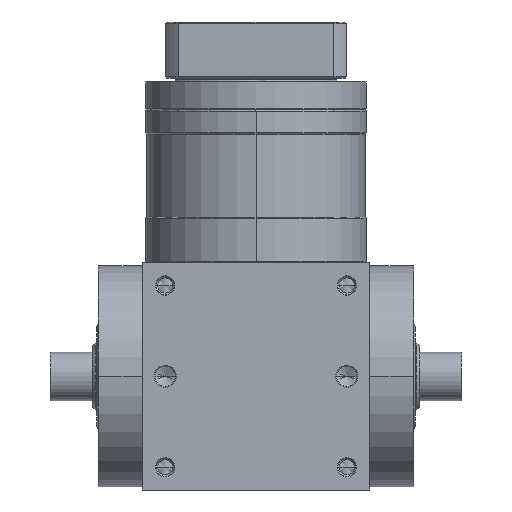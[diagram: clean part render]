
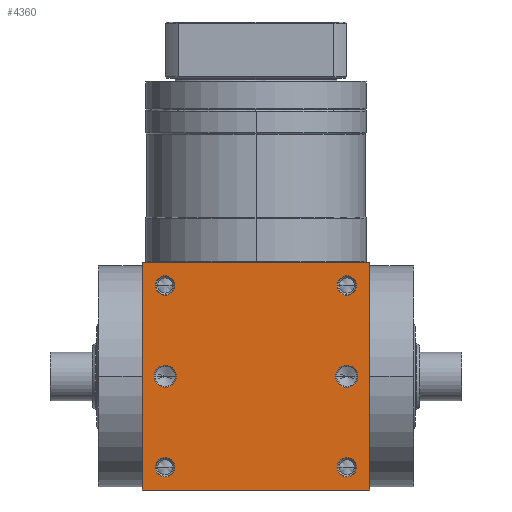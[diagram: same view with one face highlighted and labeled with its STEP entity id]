
A CAD part, front view. The second image highlights one B-rep face of the part: STEP entity #4360.
In plain terms, the highlighted planar face has unit normal (0, -1, 0).
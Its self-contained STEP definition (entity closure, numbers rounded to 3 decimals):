
#5=DIRECTION('',(1.,0.,0.));
#6=VECTOR('',#5,75.);
#7=CARTESIAN_POINT('',(-37.5,-37.5,-37.5));
#8=LINE('',#7,#6);
#155=DIRECTION('',(0.,0.,1.));
#156=VECTOR('',#155,75.);
#157=CARTESIAN_POINT('',(37.5,-37.5,-37.5));
#158=LINE('',#157,#156);
#209=DIRECTION('',(0.,0.,1.));
#210=VECTOR('',#209,75.);
#211=CARTESIAN_POINT('',(-37.5,-37.5,-37.5));
#212=LINE('',#211,#210);
#213=CARTESIAN_POINT('',(30.,-37.5,30.));
#214=DIRECTION('',(0.,1.,0.));
#215=DIRECTION('',(-1.,0.,0.));
#216=AXIS2_PLACEMENT_3D('',#213,#214,#215);
#218=CARTESIAN_POINT('',(30.,-37.5,30.));
#219=DIRECTION('',(0.,1.,0.));
#220=DIRECTION('',(1.,0.,0.));
#221=AXIS2_PLACEMENT_3D('',#218,#219,#220);
#223=CARTESIAN_POINT('',(-30.,-37.5,30.));
#224=DIRECTION('',(0.,1.,0.));
#225=DIRECTION('',(-1.,0.,0.));
#226=AXIS2_PLACEMENT_3D('',#223,#224,#225);
#228=CARTESIAN_POINT('',(-30.,-37.5,30.));
#229=DIRECTION('',(0.,1.,0.));
#230=DIRECTION('',(1.,0.,0.));
#231=AXIS2_PLACEMENT_3D('',#228,#229,#230);
#233=CARTESIAN_POINT('',(30.,-37.5,-30.));
#234=DIRECTION('',(0.,1.,0.));
#235=DIRECTION('',(-1.,0.,0.));
#236=AXIS2_PLACEMENT_3D('',#233,#234,#235);
#238=CARTESIAN_POINT('',(30.,-37.5,-30.));
#239=DIRECTION('',(0.,1.,0.));
#240=DIRECTION('',(1.,0.,0.));
#241=AXIS2_PLACEMENT_3D('',#238,#239,#240);
#243=CARTESIAN_POINT('',(-30.,-37.5,-30.));
#244=DIRECTION('',(0.,1.,0.));
#245=DIRECTION('',(-1.,0.,0.));
#246=AXIS2_PLACEMENT_3D('',#243,#244,#245);
#248=CARTESIAN_POINT('',(-30.,-37.5,-30.));
#249=DIRECTION('',(0.,1.,0.));
#250=DIRECTION('',(1.,0.,0.));
#251=AXIS2_PLACEMENT_3D('',#248,#249,#250);
#253=CARTESIAN_POINT('',(-30.,-37.5,0.));
#254=DIRECTION('',(0.,1.,0.));
#255=DIRECTION('',(1.,0.,0.));
#256=AXIS2_PLACEMENT_3D('',#253,#254,#255);
#258=CARTESIAN_POINT('',(-30.,-37.5,0.));
#259=DIRECTION('',(0.,1.,0.));
#260=DIRECTION('',(-1.,0.,0.));
#261=AXIS2_PLACEMENT_3D('',#258,#259,#260);
#263=CARTESIAN_POINT('',(30.,-37.5,0.));
#264=DIRECTION('',(0.,1.,0.));
#265=DIRECTION('',(1.,0.,0.));
#266=AXIS2_PLACEMENT_3D('',#263,#264,#265);
#268=CARTESIAN_POINT('',(30.,-37.5,0.));
#269=DIRECTION('',(0.,1.,0.));
#270=DIRECTION('',(-1.,0.,0.));
#271=AXIS2_PLACEMENT_3D('',#268,#269,#270);
#285=DIRECTION('',(1.,0.,0.));
#286=VECTOR('',#285,75.);
#287=CARTESIAN_POINT('',(-37.5,-37.5,37.5));
#288=LINE('',#287,#286);
#3518=CARTESIAN_POINT('',(-37.5,-37.5,-37.5));
#3520=VERTEX_POINT('',#3518);
#3521=CARTESIAN_POINT('',(37.5,-37.5,-37.5));
#3522=VERTEX_POINT('',#3521);
#3526=CARTESIAN_POINT('',(-37.5,-37.5,37.5));
#3528=VERTEX_POINT('',#3526);
#3529=CARTESIAN_POINT('',(37.5,-37.5,37.5));
#3530=VERTEX_POINT('',#3529);
#3685=CARTESIAN_POINT('',(26.8,-37.5,30.));
#3686=CARTESIAN_POINT('',(33.2,-37.5,30.));
#3687=VERTEX_POINT('',#3685);
#3688=VERTEX_POINT('',#3686);
#3693=CARTESIAN_POINT('',(-33.2,-37.5,30.));
#3694=CARTESIAN_POINT('',(-26.8,-37.5,30.));
#3695=VERTEX_POINT('',#3693);
#3696=VERTEX_POINT('',#3694);
#3701=CARTESIAN_POINT('',(26.8,-37.5,-30.));
#3702=CARTESIAN_POINT('',(33.2,-37.5,-30.));
#3703=VERTEX_POINT('',#3701);
#3704=VERTEX_POINT('',#3702);
#3709=CARTESIAN_POINT('',(-33.2,-37.5,-30.));
#3710=CARTESIAN_POINT('',(-26.8,-37.5,-30.));
#3711=VERTEX_POINT('',#3709);
#3712=VERTEX_POINT('',#3710);
#4033=CARTESIAN_POINT('',(-26.35,-37.5,0.));
#4034=CARTESIAN_POINT('',(-33.65,-37.5,
0.));
#4035=VERTEX_POINT('',#4033);
#4036=VERTEX_POINT('',#4034);
#4041=CARTESIAN_POINT('',(33.65,-37.5,0.));
#4042=CARTESIAN_POINT('',(26.35,-37.5,0.));
#4043=VERTEX_POINT('',#4041);
#4044=VERTEX_POINT('',#4042);
#4312=CARTESIAN_POINT('',(-37.5,-37.5,-37.5));
#4313=DIRECTION('',(0.,-1.,0.));
#4314=DIRECTION('',(1.,0.,0.));
#4315=AXIS2_PLACEMENT_3D('',#4312,#4313,#4314);
#4316=PLANE('',#4315);
#4317=ORIENTED_EDGE('',*,*,#4152,.F.);
#4318=ORIENTED_EDGE('',*,*,#4195,.T.);
#4320=ORIENTED_EDGE('',*,*,#4319,.T.);
#4321=ORIENTED_EDGE('',*,*,#4274,.F.);
#4322=EDGE_LOOP('',(#4317,#4318,#4320,#4321));
#4323=FACE_OUTER_BOUND('',#4322,.F.);
#4325=ORIENTED_EDGE('',*,*,#4324,.F.);
#4327=ORIENTED_EDGE('',*,*,#4326,.F.);
#4328=EDGE_LOOP('',(#4325,#4327));
#4329=FACE_BOUND('',#4328,.F.);
#4331=ORIENTED_EDGE('',*,*,#4330,.F.);
#4333=ORIENTED_EDGE('',*,*,#4332,.F.);
#4334=EDGE_LOOP('',(#4331,#4333));
#4335=FACE_BOUND('',#4334,.F.);
#4337=ORIENTED_EDGE('',*,*,#4336,.F.);
#4339=ORIENTED_EDGE('',*,*,#4338,.F.);
#4340=EDGE_LOOP('',(#4337,#4339));
#4341=FACE_BOUND('',#4340,.F.);
#4343=ORIENTED_EDGE('',*,*,#4342,.F.);
#4345=ORIENTED_EDGE('',*,*,#4344,.F.);
#4346=EDGE_LOOP('',(#4343,#4345));
#4347=FACE_BOUND('',#4346,.F.);
#4349=ORIENTED_EDGE('',*,*,#4348,.F.);
#4351=ORIENTED_EDGE('',*,*,#4350,.F.);
#4352=EDGE_LOOP('',(#4349,#4351));
#4353=FACE_BOUND('',#4352,.F.);
#4355=ORIENTED_EDGE('',*,*,#4354,.F.);
#4357=ORIENTED_EDGE('',*,*,#4356,.F.);
#4358=EDGE_LOOP('',(#4355,#4357));
#4359=FACE_BOUND('',#4358,.F.);
#4360=ADVANCED_FACE('',(#4323,#4329,#4335,#4341,#4347,#4353,#4359),#4316,.T.);
#217=CIRCLE('',#216,3.2);
#222=CIRCLE('',#221,3.2);
#227=CIRCLE('',#226,3.2);
#232=CIRCLE('',#231,3.2);
#237=CIRCLE('',#236,3.2);
#242=CIRCLE('',#241,3.2);
#247=CIRCLE('',#246,3.2);
#252=CIRCLE('',#251,3.2);
#257=CIRCLE('',#256,3.65);
#262=CIRCLE('',#261,3.65);
#267=CIRCLE('',#266,3.65);
#272=CIRCLE('',#271,3.65);
#4152=EDGE_CURVE('',#3520,#3522,#8,.T.);
#4195=EDGE_CURVE('',#3520,#3528,#212,.T.);
#4274=EDGE_CURVE('',#3522,#3530,#158,.T.);
#4319=EDGE_CURVE('',#3528,#3530,#288,.T.);
#4324=EDGE_CURVE('',#3687,#3688,#217,.T.);
#4326=EDGE_CURVE('',#3688,#3687,#222,.T.);
#4330=EDGE_CURVE('',#3695,#3696,#227,.T.);
#4332=EDGE_CURVE('',#3696,#3695,#232,.T.);
#4336=EDGE_CURVE('',#3703,#3704,#237,.T.);
#4338=EDGE_CURVE('',#3704,#3703,#242,.T.);
#4342=EDGE_CURVE('',#3711,#3712,#247,.T.);
#4344=EDGE_CURVE('',#3712,#3711,#252,.T.);
#4348=EDGE_CURVE('',#4035,#4036,#257,.T.);
#4350=EDGE_CURVE('',#4036,#4035,#262,.T.);
#4354=EDGE_CURVE('',#4043,#4044,#267,.T.);
#4356=EDGE_CURVE('',#4044,#4043,#272,.T.);
